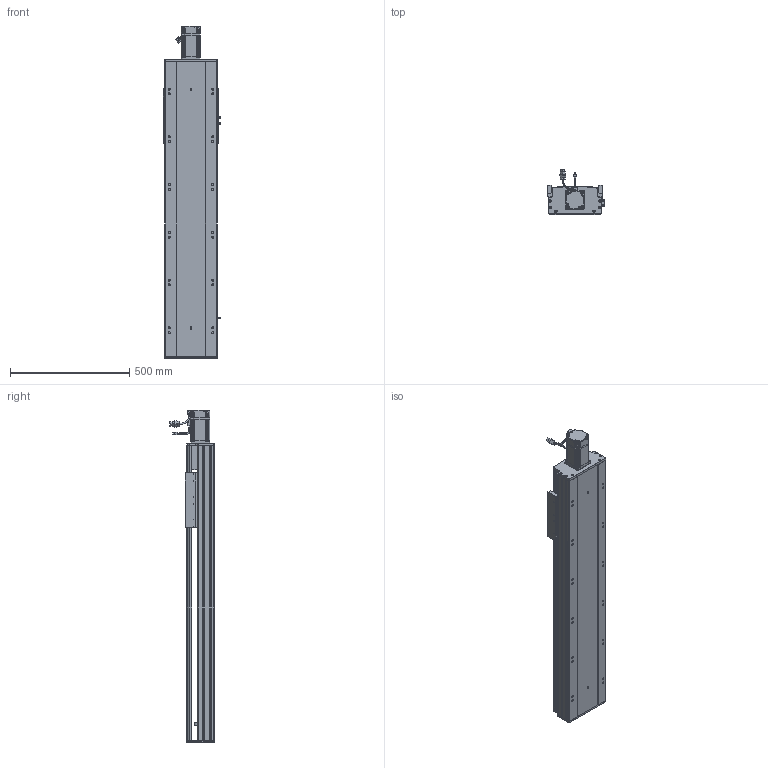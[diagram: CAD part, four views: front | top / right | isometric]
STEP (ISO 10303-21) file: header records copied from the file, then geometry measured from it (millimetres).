
FILE_DESCRIPTION (( 'STEP AP203' ), '1' );
FILE_NAME ('RY220-L2525-800-MK-邧嶺.SLDASM_800.step', '2022-08-06T08:57:14', ( '' ), ( '' ), 'SwSTEP 2.0', 'SolidWorks 2016', '' );
FILE_SCHEMA (( 'CONFIG_CONTROL_DESIGN' ));
Length unit declared in the file: millimetre
Products named in the file (12): RY220-L2525-800-MK-邧嶺.SLDASM_800; RY220綴裔啣; RY220半封闭25-32螺母铝滑块; RY220-俋离672覜茼んえ; 滅袉蝶18-12; RY220电机支撑座FK20（PCD90M6）; 怢湛750W_ECMA-CX0807ES; RY220-800-奻裔啣-MK_800; 覜茼ん672; RY220ヶ裔啣; 滅袉蝶18-15; RY220菁釱MK-800-邧嶺_800
Assembly tree (15 placements, depth 2):
  RY220-L2525-800-MK-邧嶺.SLDASM_800
    RY220菁釱MK-800-邧嶺_800
    RY220电机支撑座FK20（PCD90M6）
    怢湛750W_ECMA-CX0807ES
    滅袉蝶18-12  x2
    RY220ヶ裔啣
    RY220綴裔啣
    覜茼ん672  x3
    RY220半封闭25-32螺母铝滑块
    RY220-800-奻裔啣-MK_800
    RY220-俋离672覜茼んえ
    滅袉蝶18-15  x2
Bounding box: 238.7 x 187.27 x 1390.3 mm (x, y, z)
Volume: 11256460.2 mm3; surface area: 3073670.5 mm2
Topology: 16 solids, 16 shells, 2196 faces, 6082 edges, 3844 vertices
Faces by surface type: cylinder 978, plane 915, cone 241, bspline 36, sphere 16, torus 10
Entity records: 72040 total; most frequent: CARTESIAN_POINT 20453, ORIENTED_EDGE 10720, DIRECTION 10107, EDGE_CURVE 5360, AXIS2_PLACEMENT_3D 3541, VERTEX_POINT 3500, LINE 3025, VECTOR 3025
